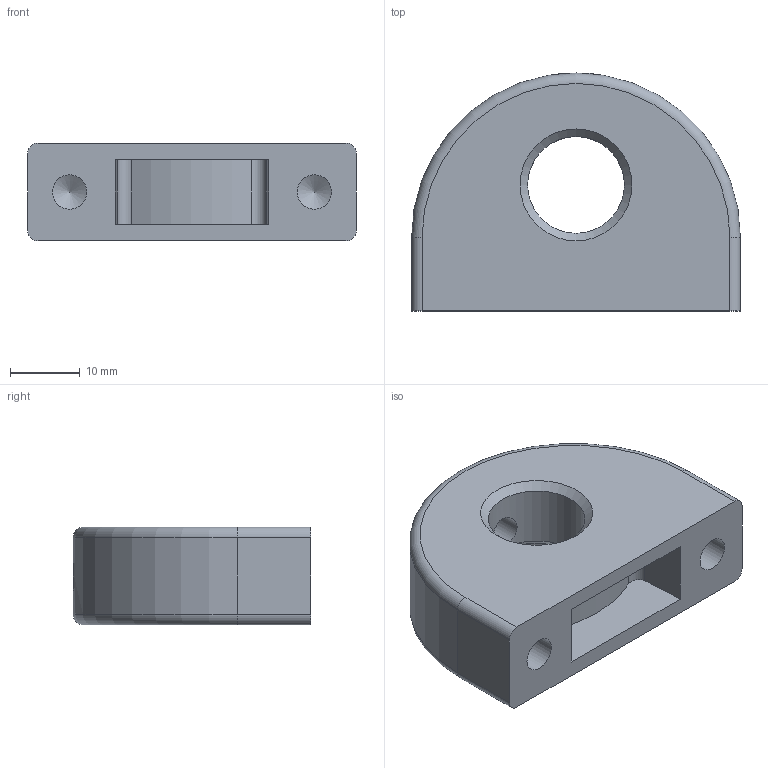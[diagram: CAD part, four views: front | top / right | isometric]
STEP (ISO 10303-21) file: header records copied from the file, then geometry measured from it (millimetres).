
FILE_DESCRIPTION( ( 'STEP AP203' ), '1' );
FILE_NAME( 'C:/Temp/Ganter_Step_05_03_2020/data/3_1/gn412_1/Mounting block GN 412.1-47-M16-2.stp', '2020-03-12T08:30:56', ( 'License CC BY-ND 4.0' ), ( 'CADENAS' ), ' ', 'PARTsolutions', ' ' );
FILE_SCHEMA( ( 'CONFIG_CONTROL_DESIGN' ) );
Length unit declared in the file: millimetre
Products named in the file (1): _Mounting block GN 412.1-47-M16-2
Bounding box: 47 x 34 x 14 mm (x, y, z)
Volume: 14582.9 mm3; surface area: 5873 mm2
Topology: 1 solids, 1 shells, 42 faces, 94 edges, 59 vertices
Faces by surface type: plane 19, cylinder 15, cone 6, torus 2
Full cylindrical faces by diameter (mm): 3 x1, 4.917 x2, 5 x2, 13.835 x1, 16.2 x1
Entity records: 1258 total; most frequent: CARTESIAN_POINT 307, DIRECTION 196, ORIENTED_EDGE 158, EDGE_CURVE 79, AXIS2_PLACEMENT_3D 76, EDGE_LOOP 62, VERTEX_POINT 59, FACE_OUTER_BOUND 49
